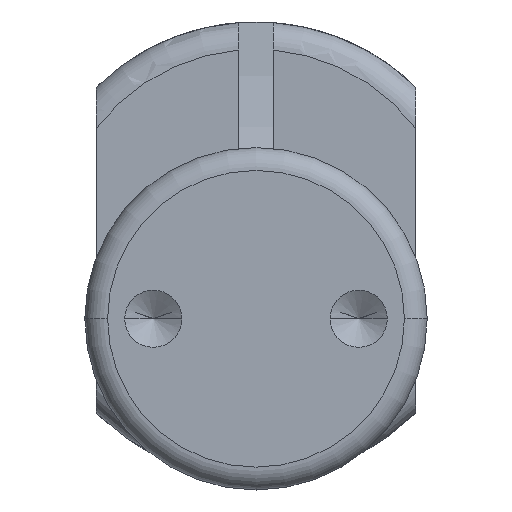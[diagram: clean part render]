
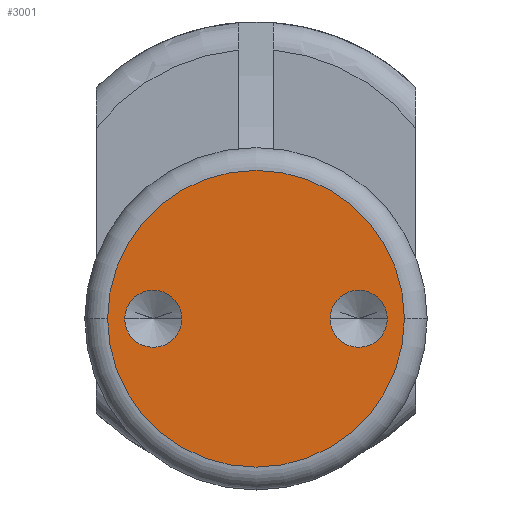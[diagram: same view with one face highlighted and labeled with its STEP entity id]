
A CAD part, front view. The second image highlights one B-rep face of the part: STEP entity #3001.
In plain terms, the highlighted planar face has unit normal (0, -1, 0) as drawn and (1, 0, 0) by its records, which use the part's own axes.
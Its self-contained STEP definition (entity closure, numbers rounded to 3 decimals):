
#51 = AXIS2_PLACEMENT_3D ( 'NONE', #2308, #1154, #2811 ) ;
#57 = CARTESIAN_POINT ( 'NONE',  ( 19., 0., 3.25 ) ) ;
#67 = DIRECTION ( 'NONE',  ( -1., 0., 0. ) ) ;
#69 = CARTESIAN_POINT ( 'NONE',  ( 19., 0., 6.5 ) ) ;
#142 = VERTEX_POINT ( 'NONE', #715 ) ;
#273 = DIRECTION ( 'NONE',  ( 1., 0., 0. ) ) ;
#278 = AXIS2_PLACEMENT_3D ( 'NONE', #2614, #579, #2658 ) ;
#367 = EDGE_CURVE ( 'NONE', #2044, #2531, #780, .T. ) ;
#421 = EDGE_CURVE ( 'NONE', #1290, #2749, #1406, .T. ) ;
#436 = EDGE_CURVE ( 'NONE', #142, #2423, #2186, .T. ) ;
#579 = DIRECTION ( 'NONE',  ( 1., 0., 0. ) ) ;
#654 = ORIENTED_EDGE ( 'NONE', *, *, #2420, .F. ) ;
#678 = ORIENTED_EDGE ( 'NONE', *, *, #436, .F. ) ;
#685 = FACE_BOUND ( 'NONE', #2505, .T. ) ;
#698 = DIRECTION ( 'NONE',  ( 1., 0., 0. ) ) ;
#702 = FACE_BOUND ( 'NONE', #1244, .T. ) ;
#714 = DIRECTION ( 'NONE',  ( 0., 0., 1. ) ) ;
#715 = CARTESIAN_POINT ( 'NONE',  ( 19., 0., -6.5 ) ) ;
#741 = ORIENTED_EDGE ( 'NONE', *, *, #2361, .F. ) ;
#780 = CIRCLE ( 'NONE', #278, 1.25 ) ;
#854 = ORIENTED_EDGE ( 'NONE', *, *, #1568, .F. ) ;
#915 = CARTESIAN_POINT ( 'NONE',  ( 19., 6.5, 0. ) ) ;
#946 = CIRCLE ( 'NONE', #2692, 1.25 ) ;
#960 = DIRECTION ( 'NONE',  ( 0., 0., -1. ) ) ;
#1020 = EDGE_LOOP ( 'NONE', ( #741, #678 ) ) ;
#1154 = DIRECTION ( 'NONE',  ( -1., 0., 0. ) ) ;
#1197 = CARTESIAN_POINT ( 'NONE',  ( 19., 0., 4.5 ) ) ;
#1244 = EDGE_LOOP ( 'NONE', ( #854, #2415 ) ) ;
#1290 = VERTEX_POINT ( 'NONE', #2000 ) ;
#1406 = CIRCLE ( 'NONE', #2287, 1.25 ) ;
#1500 = DIRECTION ( 'NONE',  ( 0., 0., -1. ) ) ;
#1509 = CIRCLE ( 'NONE', #51, 6.5 ) ;
#1568 = EDGE_CURVE ( 'NONE', #2749, #1290, #2279, .T. ) ;
#1606 = PLANE ( 'NONE',  #2710 ) ;
#1698 = DIRECTION ( 'NONE',  ( 0., 0., 1. ) ) ;
#1841 = FACE_OUTER_BOUND ( 'NONE', #1020, .T. ) ;
#1853 = CARTESIAN_POINT ( 'NONE',  ( 19., 0., -4.5 ) ) ;
#2000 = CARTESIAN_POINT ( 'NONE',  ( 19., 0., -3.25 ) ) ;
#2044 = VERTEX_POINT ( 'NONE', #2143 ) ;
#2143 = CARTESIAN_POINT ( 'NONE',  ( 19., 0., 5.75 ) ) ;
#2159 = CARTESIAN_POINT ( 'NONE',  ( 19., 0., 0. ) ) ;
#2186 = CIRCLE ( 'NONE', #2733, 6.5 ) ;
#2279 = CIRCLE ( 'NONE', #2384, 1.25 ) ;
#2287 = AXIS2_PLACEMENT_3D ( 'NONE', #2385, #2674, #1500 ) ;
#2308 = CARTESIAN_POINT ( 'NONE',  ( 19., 0., 0. ) ) ;
#2361 = EDGE_CURVE ( 'NONE', #2423, #142, #1509, .T. ) ;
#2384 = AXIS2_PLACEMENT_3D ( 'NONE', #1853, #698, #960 ) ;
#2385 = CARTESIAN_POINT ( 'NONE',  ( 19., 0., -4.5 ) ) ;
#2415 = ORIENTED_EDGE ( 'NONE', *, *, #421, .F. ) ;
#2420 = EDGE_CURVE ( 'NONE', #2531, #2044, #946, .T. ) ;
#2423 = VERTEX_POINT ( 'NONE', #69 ) ;
#2505 = EDGE_LOOP ( 'NONE', ( #654, #2546 ) ) ;
#2531 = VERTEX_POINT ( 'NONE', #57 ) ;
#2546 = ORIENTED_EDGE ( 'NONE', *, *, #367, .F. ) ;
#2614 = CARTESIAN_POINT ( 'NONE',  ( 19., 0., 4.5 ) ) ;
#2658 = DIRECTION ( 'NONE',  ( 0., 0., -1. ) ) ;
#2674 = DIRECTION ( 'NONE',  ( 1., 0., 0. ) ) ;
#2692 = AXIS2_PLACEMENT_3D ( 'NONE', #1197, #273, #2827 ) ;
#2710 = AXIS2_PLACEMENT_3D ( 'NONE', #915, #2797, #714 ) ;
#2733 = AXIS2_PLACEMENT_3D ( 'NONE', #2159, #67, #1698 ) ;
#2749 = VERTEX_POINT ( 'NONE', #2996 ) ;
#2797 = DIRECTION ( 'NONE',  ( -1., 0., 0. ) ) ;
#2811 = DIRECTION ( 'NONE',  ( 0., 0., 1. ) ) ;
#2827 = DIRECTION ( 'NONE',  ( 0., 0., -1. ) ) ;
#2996 = CARTESIAN_POINT ( 'NONE',  ( 19., 0., -5.75 ) ) ;
#3001 = ADVANCED_FACE ( 'NONE', ( #702, #685, #1841 ), #1606, .F. ) ;
